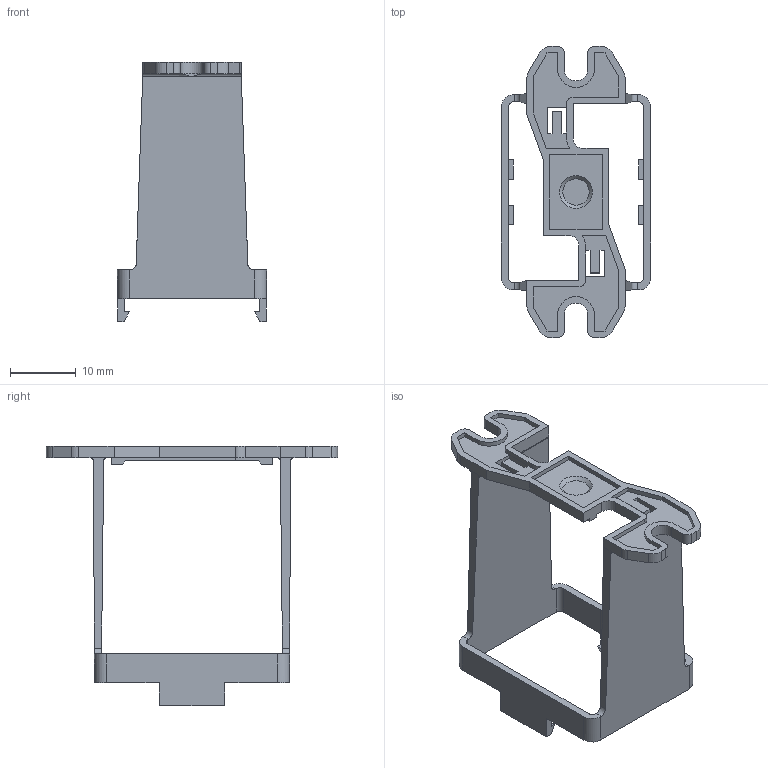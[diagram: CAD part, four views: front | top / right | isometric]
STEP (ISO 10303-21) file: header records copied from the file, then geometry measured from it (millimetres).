
FILE_DESCRIPTION(/* description */ ('Unknown'),/* implementation_level */ '2;1');
FILE_NAME(/* name */ '05625',/* time_stamp */ '2015-12-09T09:01:02+01:00',/* author */ ('Unknown'),/* organization */ ('Unknown'),/* preprocessor_version */ 'ST-DEVELOPER v16',/* originating_system */ 'DEX',/* authorisation */ $);
FILE_SCHEMA (('AUTOMOTIVE_DESIGN {1 0 10303 214 3 1 1}'));
Length unit declared in the file: millimetre
Products named in the file (1): 156784
Bounding box: 22.75 x 44.4 x 39.5 mm (x, y, z)
Volume: 2360.9 mm3; surface area: 4510.1 mm2
Topology: 1 solids, 1 shells, 170 faces, 500 edges, 328 vertices
Faces by surface type: plane 127, cylinder 40, cone 3
Entity records: 5811 total; most frequent: CARTESIAN_POINT 1178, ORIENTED_EDGE 998, DIRECTION 920, EDGE_CURVE 499, LINE 406, VECTOR 406, VERTEX_POINT 328, AXIS2_PLACEMENT_3D 257
